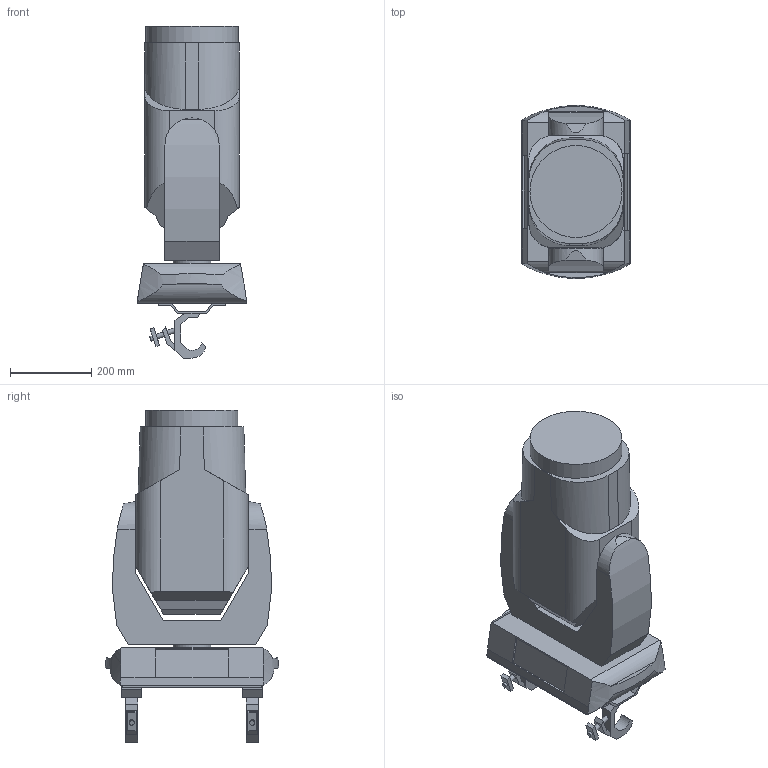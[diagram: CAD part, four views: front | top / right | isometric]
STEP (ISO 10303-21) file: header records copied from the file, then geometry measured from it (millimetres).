
FILE_DESCRIPTION( ( 'Unknown' ), '1' );
FILE_NAME( 'K:/Robin DL/02 Robin DLF Wash/08 3D_Symbols/3D_RobinDLF_00.stp', 'Unknown', ( '*' ), ( '*' ), 'PSStep 15.0.49', 'SolidEdge', ' ' );
FILE_SCHEMA( ( 'AUTOMOTIVE_DESIGN { 1 0 10303 214 1 1 1 1 }' ) );
Length unit declared in the file: millimetre
Products named in the file (7): Omega_SlimClamp_00; Omega+SlimClamp; Clamp Doughty Slimline QT; Assem1; ZákladnaDLXS; RamenoDLXS; HlavaDLXF
Assembly tree (7 placements, depth 3):
  Assem1
    ZákladnaDLXS
    RamenoDLXS
    HlavaDLXF
    Omega_SlimClamp_00  x2
      Omega+SlimClamp
      Clamp Doughty Slimline QT
Bounding box: 267.69 x 426.08 x 816.2 mm (x, y, z)
Volume: 43560874.2 mm3; surface area: 1278990.1 mm2
Topology: 7 solids, 7 shells, 192 faces, 500 edges, 339 vertices
Faces by surface type: plane 145, cylinder 45, cone 2
Full cylindrical faces by diameter (mm): 11 x4, 12 x8, 13 x6, 70 x4, 92.6 x1, 94.485 x1, 226.351 x1
Entity records: 5648 total; most frequent: CARTESIAN_POINT 991, DIRECTION 708, ORIENTED_EDGE 668, EDGE_CURVE 334, AXIS2_PLACEMENT_3D 239, VERTEX_POINT 234, LINE 230, VECTOR 230
